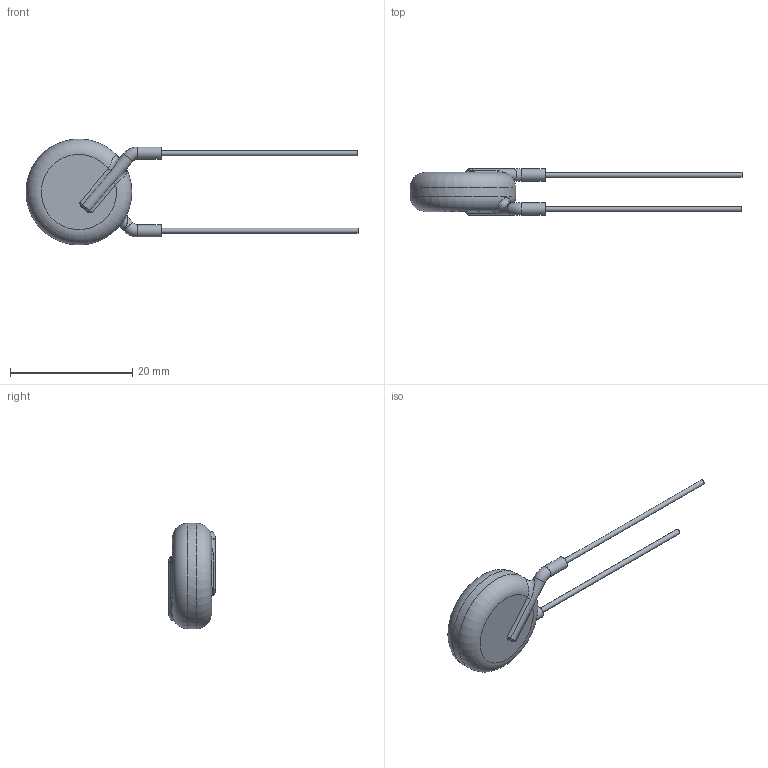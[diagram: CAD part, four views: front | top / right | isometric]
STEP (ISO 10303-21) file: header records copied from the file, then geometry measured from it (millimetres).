
FILE_DESCRIPTION((''),'2;1');
FILE_NAME('I:\Marketing\M6t1\3D-Models\Zchng-Werk-3\Upload for homepage\Ceramite\X5F-10kV\615R100GAT25\615R100GAT25.stp','2015-08-28T09:41:06',(''),(''),'Autodesk Inventor 2013','Autodesk Inventor 2013','');
FILE_SCHEMA(('AUTOMOTIVE_DESIGN { 1 0 10303 214 1 1 1 1 }'));
Length unit declared in the file: centimetre
Products named in the file (1): 615R100GAT25
Bounding box: 54.3 x 7.6 x 17.3 mm (x, y, z)
Volume: 1469.2 mm3; surface area: 962.7 mm2
Topology: 1 solids, 1 shells, 41 faces, 92 edges, 51 vertices
Faces by surface type: cylinder 13, bspline 10, torus 10, plane 8
Full cylindrical faces by diameter (mm): 0.81 x2, 2 x4, 17.3 x1
Entity records: 1507 total; most frequent: CARTESIAN_POINT 674, DIRECTION 152, ORIENTED_EDGE 140, AXIS2_PLACEMENT_3D 70, EDGE_CURVE 70, EDGE_LOOP 54, VERTEX_POINT 44, STYLED_ITEM 42
